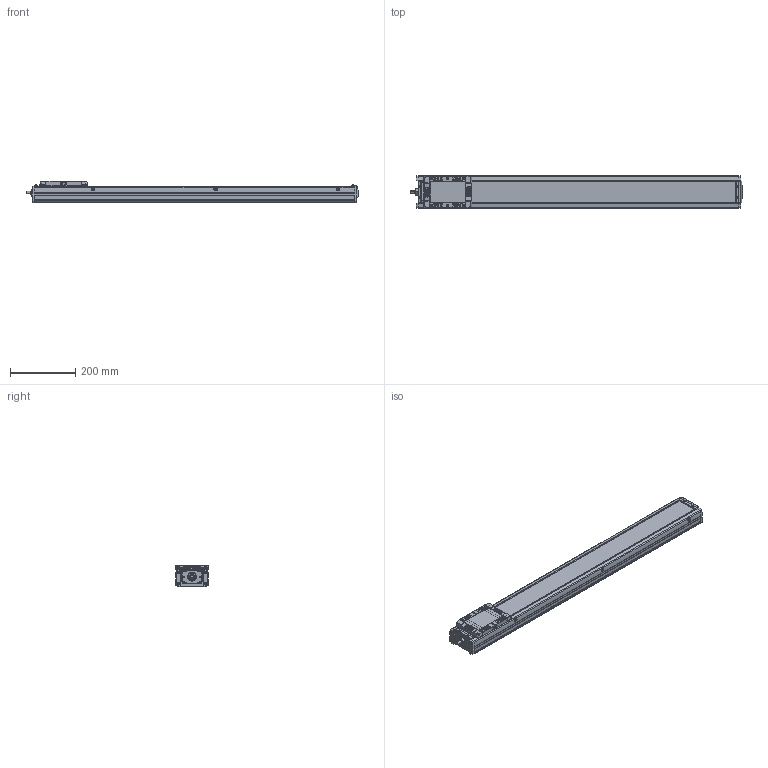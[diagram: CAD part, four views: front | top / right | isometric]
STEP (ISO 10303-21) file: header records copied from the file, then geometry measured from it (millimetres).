
FILE_DESCRIPTION(('STEP AP214'),'1');
FILE_NAME('Z:/Web/3D/SAN100/SAN100 양산용 (STEP)/SAN100ㅁㅁ-800.stp','2013-04-30T01:02:04',(' '),(' '),'Spatial InterOp 3D',' ',' ');
FILE_SCHEMA(('automotive_design'));
Length unit declared in the file: millimetre
Products named in the file (36): SUS COVER; SFX-SAN100; RRCV-SAN100; 스크루 : Round - M4.0 x 10.0; M3.0 x 6.0; 스크루 : Round - M3.0 x 6.0; FRBL-SAN100; SLBL-SAN100; SLCV-SAN100; 스크루 : Countersunk - M3.0 x 6.0; BASE; 스크루 : Round - M5.0 x 6.0; 너트 : Square - M10.0 x 220.7419; RR1500-000L; FRCV-SAN100
Bounding box: 1016 x 100 x 66 mm (x, y, z)
Volume: 2657442.5 mm3; surface area: 649671.6 mm2
Topology: 36 solids, 37 shells, 2076 faces, 5416 edges, 3475 vertices
Faces by surface type: plane 999, cylinder 781, cone 210, sphere 48, torus 26, bspline 12
Entity records: 82039 total; most frequent: CARTESIAN_POINT 12649, DIRECTION 11395, ORIENTED_EDGE 10636, EDGE_CURVE 5318, AXIS2_PLACEMENT_3D 4122, VERTEX_POINT 3475, LINE 3151, VECTOR 3151
